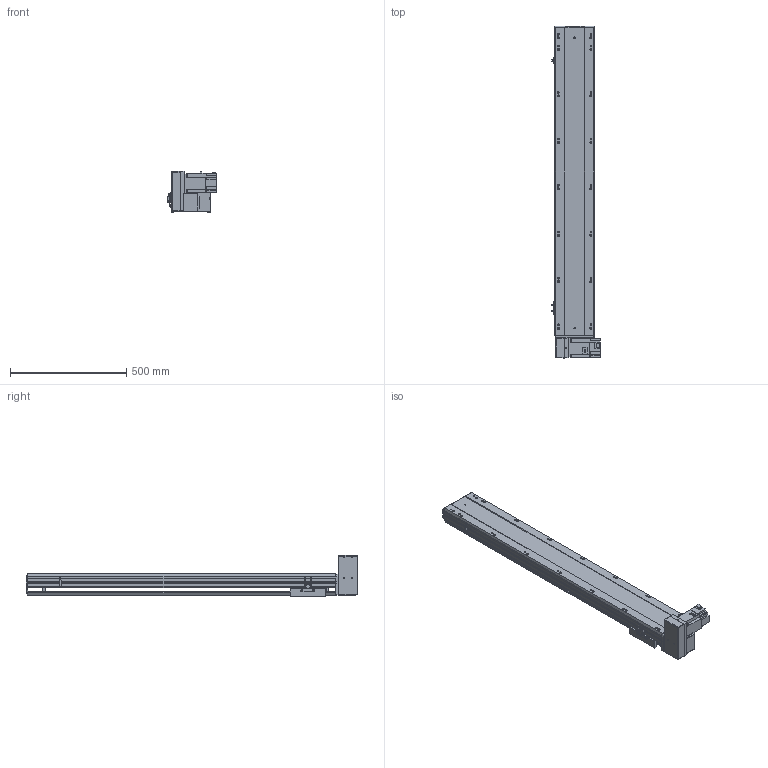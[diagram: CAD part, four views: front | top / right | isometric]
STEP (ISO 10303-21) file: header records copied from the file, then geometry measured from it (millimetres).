
FILE_DESCRIPTION (( 'STEP AP203' ), '1' );
FILE_NAME ('BTB17-L50-1050-RD-T75-C4.STEP', '2022-07-26T05:50:59', ( 'CXY' ), ( 'BT' ), 'SwSTEP 2.0', 'SolidWorks 2016', '' );
FILE_SCHEMA (( 'CONFIG_CONTROL_DESIGN' ));
Length unit declared in the file: millimetre
Products named in the file (10): T75; BTB17-L-02; BTB17-L50-1050-RD-T75-C4; BTB17-L-24; BTB17-L-06; BTB17-L-04; BTB17-L-HZ; BTB17-L-23; BTB17-L-01; BTB17-L-菁釱_XD
Assembly tree (12 placements, depth 2):
  BTB17-L50-1050-RD-T75-C4
    BTB17-L-菁釱_XD
    BTB17-L-01
    BTB17-L-04  x3
    BTB17-L-06
    BTB17-L-23  x2
    BTB17-L-24
    BTB17-L-HZ
    BTB17-L-02
    T75
Bounding box: 209 x 1429 x 176.5 mm (x, y, z)
Volume: 12667767.4 mm3; surface area: 1711097.2 mm2
Topology: 22 solids, 22 shells, 1606 faces, 4221 edges, 2668 vertices
Faces by surface type: plane 870, cylinder 552, cone 148, bspline 20, torus 16
Entity records: 41141 total; most frequent: CARTESIAN_POINT 7700, DIRECTION 6871, ORIENTED_EDGE 6594, EDGE_CURVE 3297, AXIS2_PLACEMENT_3D 2363, LINE 2145, VECTOR 2145, VERTEX_POINT 2136
